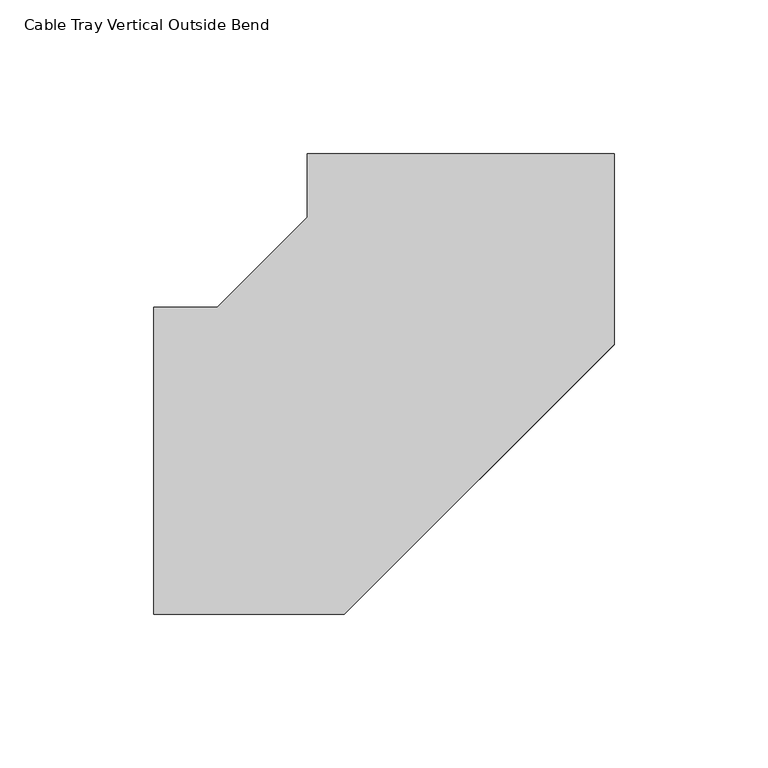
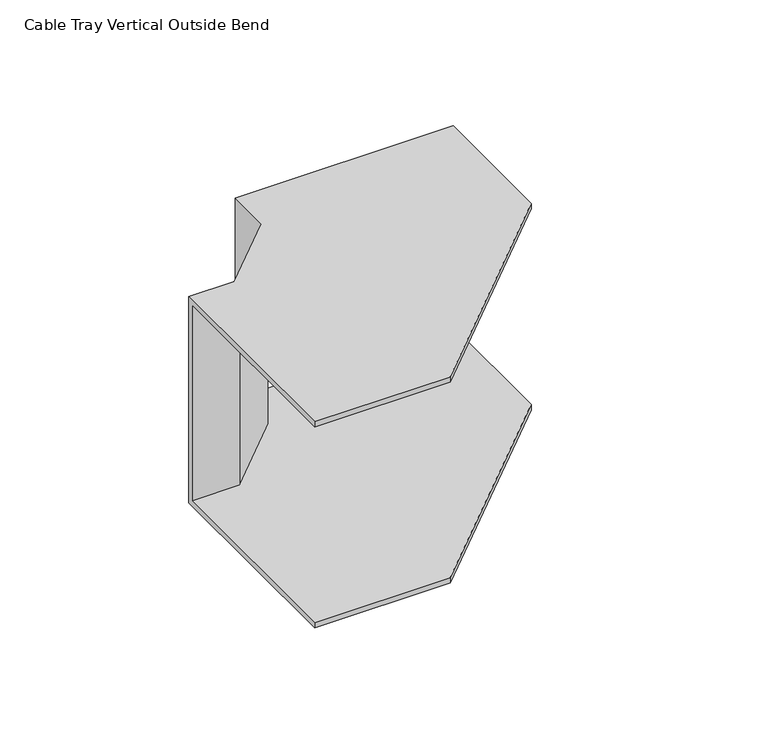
"""IFC4 building model written with IfcOpenShell, lengths in millimetres: cable carrier fitting geometry, Cable Tray Vertical Outside Bend : ELEC_ELV_TKG_N2402."""

import ifcopenshell
import ifcopenshell.guid

model = None  # the IFC model being written
_history = None  # IfcOwnerHistory: only IFC2X3 demands one
_inside = {}  # id of a spatial element -> (the spatial element, [elements in it])
_under = {}  # id of a project, library or spatial element -> (it, [spatial elements below it])
_declared = {}  # id of a project -> (the project, [libraries it declares])
_typed = {}  # id of a type object -> (the type object, [elements of that type])
_made_of = {}  # id of a material, layer set ... -> (it, [elements and type objects made of it])


def new_model(schema):
    """Start an empty IFC model of exactly this schema.

    Asked for "IFC4X3", IfcOpenShell would pick the latest addendum, in which some entities
    have other attributes; the version numbers below select the first issue.
    IFC2X3 requires an IfcOwnerHistory on every rooted entity: one is made here for all.
    """
    global model, _history
    if schema == "IFC4X3":
        model = ifcopenshell.file(schema_version=(4, 3, 0, 0))
    else:
        model = ifcopenshell.file(schema=schema)
    _inside.clear()
    _under.clear()
    _declared.clear()
    _typed.clear()
    _made_of.clear()
    _history = None
    if model.schema == "IFC2X3":
        org = make("IfcOrganization", Name="unknown")
        user = make(
            "IfcPersonAndOrganization",
            ThePerson=make("IfcPerson", FamilyName="unknown"),
            TheOrganization=org,
        )
        app = make(
            "IfcApplication",
            ApplicationDeveloper=org,
            Version="unknown",
            ApplicationFullName="unknown",
            ApplicationIdentifier="unknown",
        )
        _history = make(
            "IfcOwnerHistory",
            OwningUser=user,
            OwningApplication=app,
            ChangeAction="ADDED",
            CreationDate=0,
        )
    return model


def make(cls, **values):
    """One entity of the class cls with the attributes given. An attribute that is None is left unset."""
    return model.create_entity(
        cls, **{name: value for name, value in values.items() if value is not None}
    )


def rooted(cls, **values):
    """An entity with a GlobalId (a new one), such as an element, a storey or a relation."""
    return make(cls, GlobalId=ifcopenshell.guid.new(), OwnerHistory=_history, **values)


def si_unit(unit_type, name, prefix=None):
    """IfcSIUnit, for example si_unit("LENGTHUNIT", "METRE", prefix="MILLI")."""
    return make("IfcSIUnit", UnitType=unit_type, Prefix=prefix, Name=name)


def assignment(units):
    """IfcUnitAssignment: the units of a project."""
    return None if units is None else make("IfcUnitAssignment", Units=units)


def point(xyz):
    """IfcCartesianPoint."""
    return None if xyz is None else make("IfcCartesianPoint", Coordinates=xyz)


def direction(xyz):
    """IfcDirection."""
    return None if xyz is None else make("IfcDirection", DirectionRatios=xyz)


def frame(location, z_axis=None, x_axis=None):
    """IfcAxis2Placement3D, a coordinate frame: its origin and axes. An axis left out is left unset."""
    return make(
        "IfcAxis2Placement3D",
        Location=point(location),
        Axis=direction(z_axis),
        RefDirection=direction(x_axis),
    )


def origin():
    """The frame at (0, 0, 0) with its axes left unset."""
    return frame((0.0, 0.0, 0.0))


def place(relative_to, where):
    """IfcLocalPlacement: puts the frame where relative to a parent placement (None: the world)."""
    return make(
        "IfcLocalPlacement", PlacementRelTo=relative_to, RelativePlacement=where
    )


def context(
    kind, dimensions, precision=None, world=None, true_north=None, identifier=None
):
    """IfcGeometricRepresentationContext, for example the 3D "Model" context."""
    return make(
        "IfcGeometricRepresentationContext",
        ContextIdentifier=identifier,
        ContextType=kind,
        CoordinateSpaceDimension=dimensions,
        Precision=precision,
        WorldCoordinateSystem=world,
        TrueNorth=true_north,
    )


def project(units=None, contexts=None):
    """IfcProject with its units and contexts."""
    return rooted(
        "IfcProject",
        Name="project",
        RepresentationContexts=contexts,
        UnitsInContext=assignment(units),
    )


def spatial(cls, under=None, at=None, **own):
    """A site, building, storey or space (cls), placed at a placement, below another one or the project."""
    s = rooted(cls, ObjectPlacement=at, **own)
    if under is not None:
        _under.setdefault(under.id(), (under, []))[1].append(s)
    return s


def faces_of(points, faces, orient=None, outer=None):
    """IfcFace entities. A face is a list of loops; a loop is a list of indices into points, from 0.

    orient and outer hold one flag for each loop. By default every Orientation is true, the
    first loop of a face is its IfcFaceOuterBound and the others are IfcFaceBound.
    """
    made = []
    for i, loops in enumerate(faces):
        bounds = []
        for j, loop in enumerate(loops):
            is_outer = j == 0 if outer is None else outer[i][j]
            bounds.append(
                make(
                    "IfcFaceOuterBound" if is_outer else "IfcFaceBound",
                    Bound=make("IfcPolyLoop", Polygon=[points[k] for k in loop]),
                    Orientation=True if orient is None else orient[i][j],
                )
            )
        made.append(make("IfcFace", Bounds=bounds))
    return made


def faceted_brep(points, faces, orient=None, outer=None, voids=None):
    """IfcFacetedBrep: a solid bounded by flat faces; with voids (closed shells), ...WithVoids."""
    shared = [point(p) for p in points]
    hull = make("IfcClosedShell", CfsFaces=faces_of(shared, faces, orient, outer))
    if voids is None:
        return make("IfcFacetedBrep", Outer=hull)
    return make(
        "IfcFacetedBrepWithVoids",
        Outer=hull,
        Voids=[
            make(cls, CfsFaces=faces_of(shared, fs, o, b)) for cls, fs, o, b in voids
        ],
    )


def shape(context_of_items, identifier, shape_type, items):
    """IfcShapeRepresentation: the items that make up one representation, for example the "Body"."""
    return make(
        "IfcShapeRepresentation",
        ContextOfItems=context_of_items,
        RepresentationIdentifier=identifier,
        RepresentationType=shape_type,
        Items=items,
    )


def source(mapping_origin, context_of_items, identifier, shape_type, items):
    """IfcRepresentationMap: a shape defined once, which mapped items show again and again."""
    return make(
        "IfcRepresentationMap",
        MappingOrigin=mapping_origin,
        MappedRepresentation=shape(context_of_items, identifier, shape_type, items),
    )


def transform(
    local_origin,
    x_axis=None,
    y_axis=None,
    z_axis=None,
    scale=None,
    scale2=None,
    scale3=None,
    uniform=True,
):
    """IfcCartesianTransformationOperator3D, or its non-uniform kind. x_axis, y_axis, z_axis: its Axis1, 2, 3."""
    if uniform:
        return make(
            "IfcCartesianTransformationOperator3D",
            Axis1=direction(x_axis),
            Axis2=direction(y_axis),
            LocalOrigin=point(local_origin),
            Scale=scale,
            Axis3=direction(z_axis),
        )
    return make(
        "IfcCartesianTransformationOperator3DnonUniform",
        Axis1=direction(x_axis),
        Axis2=direction(y_axis),
        LocalOrigin=point(local_origin),
        Scale=scale,
        Axis3=direction(z_axis),
        Scale2=scale2,
        Scale3=scale3,
    )


def mapped(mapping_source, mapping_target):
    """IfcMappedItem: shows the shape of a source again, moved by a transform."""
    return make(
        "IfcMappedItem", MappingSource=mapping_source, MappingTarget=mapping_target
    )


def made_of(thing, what):
    """Note that an element or type object is made of a material, layer set ...; save() writes the relation."""
    if what is not None:
        _made_of.setdefault(what.id(), (what, []))[1].append(thing)
    return thing


def element(
    cls,
    number,
    at=None,
    inside=None,
    cuts=None,
    type_object=None,
    material=None,
    context=None,
    identifier="Body",
    shape_type=None,
    held_by="IfcProductDefinitionShape",
    body=None,
    shapes=None,
    **own,
):
    """One element of the class cls, such as IfcWall. Its Tag is "e" and its number.

    at: its placement. inside: the storey or other place that contains it. cuts: it is an
    opening in that element (IfcRelVoidsElement). A single representation is given by context,
    identifier, shape_type and body (its items); several are given by shapes. held_by: the class
    of the entity that holds the representations. save() writes the other relations.
    """
    e = rooted(cls, Tag="e%d" % number, ObjectPlacement=at, **own)
    if body is not None:
        shapes = [shape(context, identifier, shape_type, body)]
    if shapes is not None:
        e.Representation = make(held_by, Representations=shapes)
    if inside is not None:
        _inside.setdefault(inside.id(), (inside, []))[1].append(e)
    if cuts is not None:
        rooted(
            "IfcRelVoidsElement", RelatingBuildingElement=cuts, RelatedOpeningElement=e
        )
    if type_object is not None:
        _typed.setdefault(type_object.id(), (type_object, []))[1].append(e)
    return made_of(e, material)


def aggregate(whole, parts):
    """IfcRelAggregates: a whole, such as a stair, and the parts it consists of."""
    return rooted("IfcRelAggregates", RelatingObject=whole, RelatedObjects=parts)


def save(model, path):
    """Write the relations noted so far, then the file.

    IfcRelAggregates (storeys below a building ...), IfcRelContainedInSpatialStructure (elements
    in a storey), IfcRelDefinesByType, IfcRelAssociatesMaterial and IfcRelDeclares: one each for
    every whole, place, type object, material and project.
    """
    for whole, parts in _under.values():
        aggregate(whole, parts)
    for where, things in _inside.values():
        rooted(
            "IfcRelContainedInSpatialStructure",
            RelatedElements=things,
            RelatingStructure=where,
        )
    for kind, things in _typed.values():
        rooted("IfcRelDefinesByType", RelatedObjects=things, RelatingType=kind)
    for what, things in _made_of.values():
        rooted("IfcRelAssociatesMaterial", RelatedObjects=things, RelatingMaterial=what)
    for by, libraries in _declared.values():
        rooted("IfcRelDeclares", RelatingContext=by, RelatedDefinitions=libraries)
    model.write(path)


def cable_tray_vertical_outside_bend_9d80a6f1(model_context):
    return source(origin(), model_context, "Body", "Brep", [
        faceted_brep([(-99.9982369, -50.0, 50.0), (-99.9982369, 50.0, 50.0), (-99.9982369, 50.0, -50.0), (-99.9982369, -50.0, -50.0), (-99.9982369, -50.0, -47.46), (-99.9982369, 47.46, -47.46), (-99.9982369, 47.46, 47.46), (-99.9982369, -50.0, 47.46), (50.0017631, 99.9973553, 50.0), (50.0017631, 99.9973553, 47.46), (-47.4582369, 99.9990737, 47.46), (-47.4582369, 99.9990737, -47.46), (50.0017631, 99.9973553, -47.46), (50.0017631, 99.9973553, -50.0), (-49.9982369, 99.9991184, -50.0), (-49.9982369, 99.9991184, 50.0), (-37.8669772, -50.0, 50.0), (50.0006676, 37.8660956, 50.0), (-49.9986021, 79.2886985, 50.0), (-79.287817, 50.0, 50.0), (-79.287817, 50.0, -50.0), (-49.9986021, 79.2886985, -50.0), (50.0006676, 37.8660956, -50.0), (-37.8669772, -50.0, -50.0), (-37.8669772, -50.0, -47.46), (50.0006676, 37.8660956, -47.46), (-47.4586206, 78.2365644, -47.46), (-78.2357277, 47.46, -47.46), (-78.2357277, 47.46, 47.46), (-47.4586206, 78.2365644, 47.46), (50.0006676, 37.8660956, 47.46), (-37.8669772, -50.0, 47.46)], [[[0, 1, 2, 3, 4, 5, 6, 7]], [[8, 9, 10, 11, 12, 13, 14, 15]], [[1, 0, 16, 17, 8, 15, 18, 19]], [[2, 1, 19, 20]], [[3, 2, 20, 21, 14, 13, 22, 23]], [[4, 3, 23, 24]], [[5, 4, 24, 25, 12, 11, 26, 27]], [[6, 5, 27, 28]], [[7, 6, 28, 29, 10, 9, 30, 31]], [[0, 7, 31, 16]], [[20, 19, 18, 21]], [[24, 23, 22, 25]], [[28, 27, 26, 29]], [[16, 31, 30, 17]], [[21, 18, 15, 14]], [[25, 22, 13, 12]], [[29, 26, 11, 10]], [[17, 30, 9, 8]]]),
    ])


if __name__ == "__main__":
    model = new_model("IFC4")
    model_context = context("Model", 3, world=origin())
    ifc_project = project(units=[si_unit("LENGTHUNIT", "METRE", prefix="MILLI")], contexts=[model_context])
    site = spatial("IfcSite", under=ifc_project)
    building = spatial("IfcBuilding", under=site)
    placement = place(None, origin())
    cable_tray_vertical_outside_bend_shape = cable_tray_vertical_outside_bend_9d80a6f1(model_context)
    element("IfcCableCarrierFitting", 1, ObjectType="Cable Tray Vertical Outside Bend : ELEC_ELV_TKG_N2402", at=placement, inside=building, context=model_context, shape_type="MappedRepresentation", body=[
        mapped(cable_tray_vertical_outside_bend_shape, transform((0.0, 0.0, 0.0), x_axis=(1.0, 0.0, 0.0), y_axis=(0.0, 1.0, 0.0), z_axis=(0.0, 0.0, 1.0))),
    ])
    save(model, "model.ifc")
